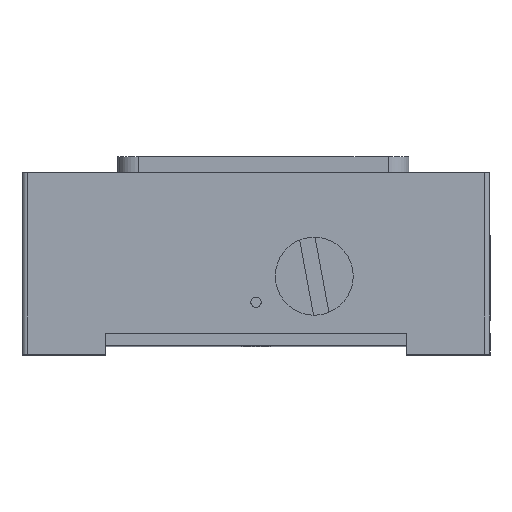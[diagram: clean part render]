
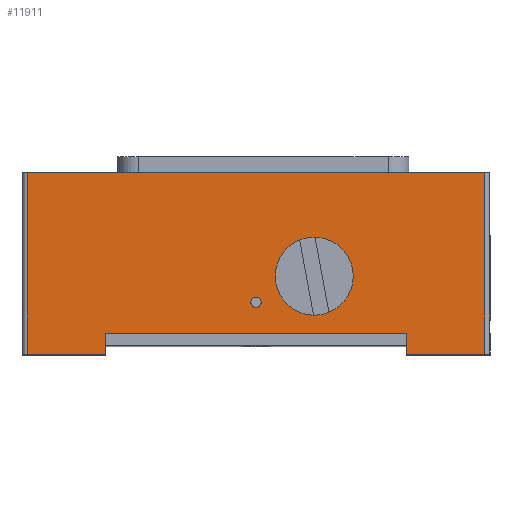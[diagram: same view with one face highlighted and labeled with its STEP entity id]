
A CAD part, top view. The second image highlights one B-rep face of the part: STEP entity #11911.
In plain terms, the highlighted planar face has unit normal (0, 0, 1).
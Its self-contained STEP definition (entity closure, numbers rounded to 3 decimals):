
#11 = CARTESIAN_POINT ( 'NONE',  ( 1.85, 0., 30. ) ) ;
#371 = VECTOR ( 'NONE', #17856, 1000. ) ;
#1516 = LINE ( 'NONE', #3089, #17223 ) ;
#1679 = ORIENTED_EDGE ( 'NONE', *, *, #19482, .F. ) ;
#1867 = DIRECTION ( 'NONE',  ( 0., 1., 0. ) ) ;
#2022 = VERTEX_POINT ( 'NONE', #13792 ) ;
#2430 = VECTOR ( 'NONE', #1867, 1000. ) ;
#2439 = VERTEX_POINT ( 'NONE', #19415 ) ;
#2492 = DIRECTION ( 'NONE',  ( 0., -1., 0. ) ) ;
#2738 = CIRCLE ( 'NONE', #4652, 3.75 ) ;
#3089 = CARTESIAN_POINT ( 'NONE',  ( 22., -7.5, 30. ) ) ;
#3444 = AXIS2_PLACEMENT_3D ( 'NONE', #22618, #6284, #22846 ) ;
#3556 = VECTOR ( 'NONE', #16238, 1000. ) ;
#3627 = CARTESIAN_POINT ( 'NONE',  ( -22., 10., 30. ) ) ;
#3808 = VERTEX_POINT ( 'NONE', #5482 ) ;
#3903 = CIRCLE ( 'NONE', #9610, 0.5 ) ;
#4052 = DIRECTION ( 'NONE',  ( 1., 0., 0. ) ) ;
#4059 = ORIENTED_EDGE ( 'NONE', *, *, #9343, .F. ) ;
#4332 = FACE_OUTER_BOUND ( 'NONE', #15883, .T. ) ;
#4448 = DIRECTION ( 'NONE',  ( -1., 0., 0. ) ) ;
#4652 = AXIS2_PLACEMENT_3D ( 'NONE', #9304, #13101, #4052 ) ;
#4684 = ORIENTED_EDGE ( 'NONE', *, *, #17487, .F. ) ;
#4824 = EDGE_CURVE ( 'NONE', #13557, #3808, #7327, .T. ) ;
#5147 = ORIENTED_EDGE ( 'NONE', *, *, #5156, .T. ) ;
#5156 = EDGE_CURVE ( 'NONE', #2439, #2022, #17513, .T. ) ;
#5163 = LINE ( 'NONE', #8978, #3556 ) ;
#5469 = CARTESIAN_POINT ( 'NONE',  ( 0., -5.5, 30. ) ) ;
#5482 = CARTESIAN_POINT ( 'NONE',  ( 14.5, -7.5, 30. ) ) ;
#6174 = CARTESIAN_POINT ( 'NONE',  ( 22., 10., 30. ) ) ;
#6284 = DIRECTION ( 'NONE',  ( 0., 0., 1. ) ) ;
#6764 = ORIENTED_EDGE ( 'NONE', *, *, #19410, .F. ) ;
#7327 = LINE ( 'NONE', #16966, #12534 ) ;
#7616 = LINE ( 'NONE', #12980, #11458 ) ;
#8015 = VERTEX_POINT ( 'NONE', #23168 ) ;
#8600 = LINE ( 'NONE', #19773, #13062 ) ;
#8978 = CARTESIAN_POINT ( 'NONE',  ( -22.5, 10., 30. ) ) ;
#9304 = CARTESIAN_POINT ( 'NONE',  ( 5.6, 0., 30. ) ) ;
#9343 = EDGE_CURVE ( 'NONE', #14842, #17234, #14795, .T. ) ;
#9494 = DIRECTION ( 'NONE',  ( 0., 0., -1. ) ) ;
#9576 = DIRECTION ( 'NONE',  ( 0., -1., 0. ) ) ;
#9610 = AXIS2_PLACEMENT_3D ( 'NONE', #22141, #9494, #18554 ) ;
#9797 = VERTEX_POINT ( 'NONE', #11833 ) ;
#10076 = VERTEX_POINT ( 'NONE', #3627 ) ;
#10692 = CARTESIAN_POINT ( 'NONE',  ( 9.35, 0., 30. ) ) ;
#11284 = LINE ( 'NONE', #16220, #22919 ) ;
#11458 = VECTOR ( 'NONE', #2492, 1000. ) ;
#11833 = CARTESIAN_POINT ( 'NONE',  ( -14.5, -5.5, 30. ) ) ;
#11911 = ADVANCED_FACE ( 'NONE', ( #18507, #4332, #15156 ), #18859, .F. ) ;
#12308 = CARTESIAN_POINT ( 'NONE',  ( 0., -2.5, 30. ) ) ;
#12534 = VECTOR ( 'NONE', #9576, 1000. ) ;
#12599 = DIRECTION ( 'NONE',  ( -1., 0., 0. ) ) ;
#12980 = CARTESIAN_POINT ( 'NONE',  ( -14.5, -5., 30. ) ) ;
#13062 = VECTOR ( 'NONE', #23609, 1000. ) ;
#13101 = DIRECTION ( 'NONE',  ( 0., 0., 1. ) ) ;
#13493 = CARTESIAN_POINT ( 'NONE',  ( -22.5, 6.5, 30. ) ) ;
#13557 = VERTEX_POINT ( 'NONE', #15250 ) ;
#13634 = ORIENTED_EDGE ( 'NONE', *, *, #15348, .F. ) ;
#13792 = CARTESIAN_POINT ( 'NONE',  ( 0.5, -2.5, 30. ) ) ;
#14286 = LINE ( 'NONE', #5469, #371 ) ;
#14795 = CIRCLE ( 'NONE', #3444, 3.75 ) ;
#14842 = VERTEX_POINT ( 'NONE', #10692 ) ;
#14978 = EDGE_CURVE ( 'NONE', #23431, #23047, #21910, .T. ) ;
#15156 = FACE_BOUND ( 'NONE', #16128, .T. ) ;
#15250 = CARTESIAN_POINT ( 'NONE',  ( 14.5, -5.5, 30. ) ) ;
#15348 = EDGE_CURVE ( 'NONE', #10076, #23047, #5163, .T. ) ;
#15714 = EDGE_CURVE ( 'NONE', #8015, #22226, #8600, .T. ) ;
#15875 = DIRECTION ( 'NONE',  ( -1., 0., 0. ) ) ;
#15883 = EDGE_LOOP ( 'NONE', ( #16614, #18138, #4684, #17956, #13634, #19844, #20031, #6764 ) ) ;
#16128 = EDGE_LOOP ( 'NONE', ( #4059, #1679 ) ) ;
#16220 = CARTESIAN_POINT ( 'NONE',  ( -22., 6.5, 30. ) ) ;
#16238 = DIRECTION ( 'NONE',  ( 1., 0., 0. ) ) ;
#16614 = ORIENTED_EDGE ( 'NONE', *, *, #19667, .F. ) ;
#16966 = CARTESIAN_POINT ( 'NONE',  ( 14.5, -5., 30. ) ) ;
#17223 = VECTOR ( 'NONE', #12599, 1000. ) ;
#17234 = VERTEX_POINT ( 'NONE', #11 ) ;
#17487 = EDGE_CURVE ( 'NONE', #23431, #3808, #1516, .T. ) ;
#17513 = CIRCLE ( 'NONE', #21696, 0.5 ) ;
#17698 = EDGE_CURVE ( 'NONE', #2022, #2439, #3903, .T. ) ;
#17789 = DIRECTION ( 'NONE',  ( 0., 0., -1. ) ) ;
#17856 = DIRECTION ( 'NONE',  ( -1., 0., 0. ) ) ;
#17956 = ORIENTED_EDGE ( 'NONE', *, *, #14978, .T. ) ;
#18138 = ORIENTED_EDGE ( 'NONE', *, *, #4824, .T. ) ;
#18507 = FACE_BOUND ( 'NONE', #18892, .T. ) ;
#18554 = DIRECTION ( 'NONE',  ( -1., 0., 0. ) ) ;
#18859 = PLANE ( 'NONE',  #20633 ) ;
#18892 = EDGE_LOOP ( 'NONE', ( #19279, #5147 ) ) ;
#19279 = ORIENTED_EDGE ( 'NONE', *, *, #17698, .T. ) ;
#19410 = EDGE_CURVE ( 'NONE', #9797, #8015, #7616, .T. ) ;
#19415 = CARTESIAN_POINT ( 'NONE',  ( -0.5, -2.5, 30. ) ) ;
#19482 = EDGE_CURVE ( 'NONE', #17234, #14842, #2738, .T. ) ;
#19667 = EDGE_CURVE ( 'NONE', #13557, #9797, #14286, .T. ) ;
#19730 = CARTESIAN_POINT ( 'NONE',  ( 22., -7.5, 30. ) ) ;
#19773 = CARTESIAN_POINT ( 'NONE',  ( -14.5, -7.5, 30. ) ) ;
#19844 = ORIENTED_EDGE ( 'NONE', *, *, #21169, .T. ) ;
#20031 = ORIENTED_EDGE ( 'NONE', *, *, #15714, .F. ) ;
#20334 = CARTESIAN_POINT ( 'NONE',  ( 22., 6.5, 30. ) ) ;
#20456 = DIRECTION ( 'NONE',  ( 0., -1., 0. ) ) ;
#20633 = AXIS2_PLACEMENT_3D ( 'NONE', #13493, #20761, #4448 ) ;
#20761 = DIRECTION ( 'NONE',  ( 0., 0., -1. ) ) ;
#20762 = CARTESIAN_POINT ( 'NONE',  ( -22., -7.5, 30. ) ) ;
#21169 = EDGE_CURVE ( 'NONE', #10076, #22226, #11284, .T. ) ;
#21696 = AXIS2_PLACEMENT_3D ( 'NONE', #12308, #17789, #15875 ) ;
#21910 = LINE ( 'NONE', #20334, #2430 ) ;
#22141 = CARTESIAN_POINT ( 'NONE',  ( 0., -2.5, 30. ) ) ;
#22226 = VERTEX_POINT ( 'NONE', #20762 ) ;
#22618 = CARTESIAN_POINT ( 'NONE',  ( 5.6, 0., 30. ) ) ;
#22846 = DIRECTION ( 'NONE',  ( 1., 0., 0. ) ) ;
#22919 = VECTOR ( 'NONE', #20456, 1000. ) ;
#23047 = VERTEX_POINT ( 'NONE', #6174 ) ;
#23168 = CARTESIAN_POINT ( 'NONE',  ( -14.5, -7.5, 30. ) ) ;
#23431 = VERTEX_POINT ( 'NONE', #19730 ) ;
#23609 = DIRECTION ( 'NONE',  ( -1., 0., 0. ) ) ;
